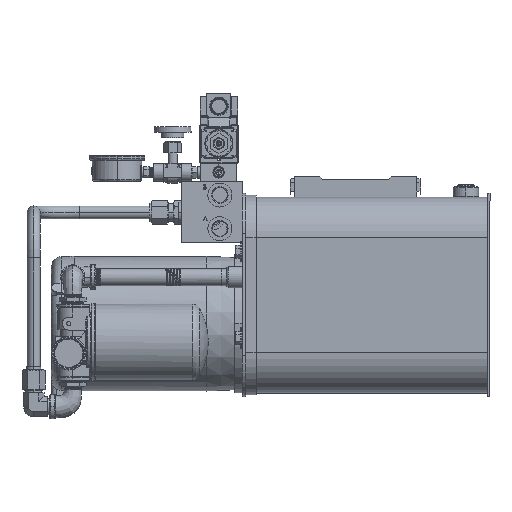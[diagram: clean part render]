
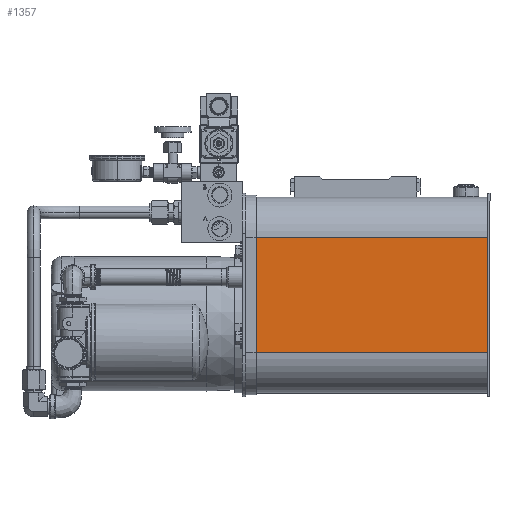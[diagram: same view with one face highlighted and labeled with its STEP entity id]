
A CAD part, top view. The second image highlights one B-rep face of the part: STEP entity #1357.
In plain terms, the highlighted planar face has unit normal (0, 0, 1).
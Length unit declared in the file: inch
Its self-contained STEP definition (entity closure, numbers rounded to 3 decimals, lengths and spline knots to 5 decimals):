
#932 = VECTOR ( 'NONE', #94317, 39.37008 ) ;
#1357 = ADVANCED_FACE ( 'NONE', ( #60913 ), #4847, .T. ) ;
#3518 = LINE ( 'NONE', #4972, #93369 ) ;
#4847 = PLANE ( 'NONE',  #10693 ) ;
#4972 = CARTESIAN_POINT ( 'NONE',  ( -4.19624, 5.5236, 18.29139 ) ) ;
#7909 = ORIENTED_EDGE ( 'NONE', *, *, #17594, .F. ) ;
#10693 = AXIS2_PLACEMENT_3D ( 'NONE', #74172, #50584, #86657 ) ;
#17594 = EDGE_CURVE ( 'NONE', #67712, #67574, #19963, .T. ) ;
#18499 = DIRECTION ( 'NONE',  ( 1., 0., 0. ) ) ;
#19963 = LINE ( 'NONE', #41414, #31354 ) ;
#26194 = CARTESIAN_POINT ( 'NONE',  ( -4.07124, 11.1486, 18.29139 ) ) ;
#27537 = EDGE_LOOP ( 'NONE', ( #7909, #65908, #40503, #103982 ) ) ;
#28000 = CARTESIAN_POINT ( 'NONE',  ( 7.68416, 13.3361, 18.29139 ) ) ;
#31354 = VECTOR ( 'NONE', #18499, 39.37008 ) ;
#31456 = LINE ( 'NONE', #144970, #90196 ) ;
#36789 = DIRECTION ( 'NONE',  ( 1., 0., 0. ) ) ;
#37608 = EDGE_CURVE ( 'NONE', #39042, #67712, #31456, .T. ) ;
#37654 = LINE ( 'NONE', #28000, #932 ) ;
#39042 = VERTEX_POINT ( 'NONE', #70659 ) ;
#40503 = ORIENTED_EDGE ( 'NONE', *, *, #141427, .T. ) ;
#41414 = CARTESIAN_POINT ( 'NONE',  ( -4.19624, 11.1486, 18.29139 ) ) ;
#45888 = EDGE_CURVE ( 'NONE', #74438, #67574, #37654, .T. ) ;
#50584 = DIRECTION ( 'NONE',  ( 0., 0., 1. ) ) ;
#60913 = FACE_OUTER_BOUND ( 'NONE', #27537, .T. ) ;
#65908 = ORIENTED_EDGE ( 'NONE', *, *, #37608, .F. ) ;
#67574 = VERTEX_POINT ( 'NONE', #102905 ) ;
#67712 = VERTEX_POINT ( 'NONE', #26194 ) ;
#68562 = CARTESIAN_POINT ( 'NONE',  ( 7.68416, 5.5236, 18.29139 ) ) ;
#70659 = CARTESIAN_POINT ( 'NONE',  ( -4.07124, 5.5236, 18.29139 ) ) ;
#74172 = CARTESIAN_POINT ( 'NONE',  ( -4.19624, 5.5236, 18.29139 ) ) ;
#74438 = VERTEX_POINT ( 'NONE', #68562 ) ;
#86657 = DIRECTION ( 'NONE',  ( 0., 1., 0. ) ) ;
#90196 = VECTOR ( 'NONE', #133243, 39.37008 ) ;
#93369 = VECTOR ( 'NONE', #36789, 39.37008 ) ;
#94317 = DIRECTION ( 'NONE',  ( 0., 1., 0. ) ) ;
#102905 = CARTESIAN_POINT ( 'NONE',  ( 7.68416, 11.1486, 18.29139 ) ) ;
#103982 = ORIENTED_EDGE ( 'NONE', *, *, #45888, .T. ) ;
#133243 = DIRECTION ( 'NONE',  ( 0., 1., 0. ) ) ;
#141427 = EDGE_CURVE ( 'NONE', #39042, #74438, #3518, .T. ) ;
#144970 = CARTESIAN_POINT ( 'NONE',  ( -4.07124, 5.5236, 18.29139 ) ) ;
